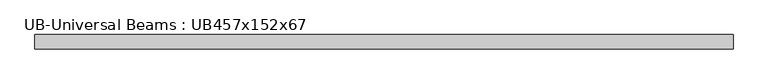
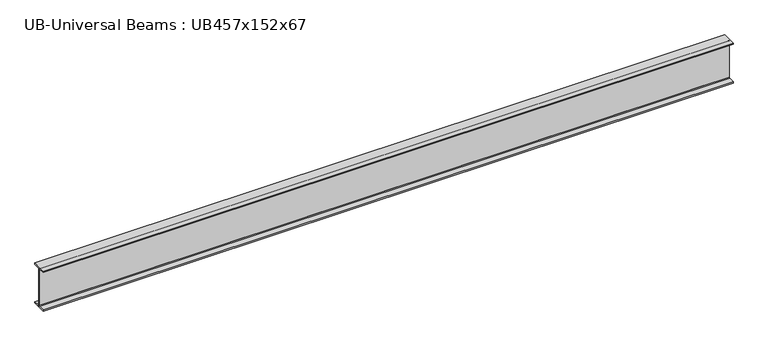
"""IFC4 building model written with IfcOpenShell, lengths in millimetres: beam geometry, UB-Universal Beams : UB457x152x67."""

from ifc_helpers import new_model, si_unit, point, frame, frame_2d, origin, place, context, project, spatial, polyline, circle_curve, trimmed, segment, composite_curve, outline, extrude, source, transform, mapped, element, save


def ub_universal_beams_ub457x152x67_21f5ef47(model_context):
    return source(origin(), model_context, "Body", "SweptSolid", [
        extrude(outline(composite_curve([segment(polyline([(76.9, -214.0), (76.9, -229.0), (-76.9, -229.0), (-76.9, -214.0), (-14.7, -214.0)]), True, "CONTINUOUS"), segment(trimmed(circle_curve(frame_2d((-14.7, -203.8)), 10.2), [point((-14.7, -214.0))], [point((-4.5, -203.8))], True, "CARTESIAN"), True, "CONTINUOUS"), segment(polyline([(-4.5, -203.8), (-4.5, 203.8)]), True, "CONTINUOUS"), segment(trimmed(circle_curve(frame_2d((-14.7, 203.8)), 10.2), [point((-4.5, 203.8))], [point((-14.7, 214.0))], True, "CARTESIAN"), True, "CONTINUOUS"), segment(polyline([(-14.7, 214.0), (-76.9, 214.0), (-76.9, 229.0), (76.9, 229.0), (76.9, 214.0), (14.7, 214.0)]), True, "CONTINUOUS"), segment(trimmed(circle_curve(frame_2d((14.7, 203.8)), 10.2), [point((14.7, 214.0))], [point((4.5, 203.8))], True, "CARTESIAN"), True, "CONTINUOUS"), segment(polyline([(4.5, 203.8), (4.5, -203.8)]), True, "CONTINUOUS"), segment(trimmed(circle_curve(frame_2d((14.7, -203.8)), 10.2), [point((4.5, -203.8))], [point((14.7, -214.0))], True, "CARTESIAN"), True, "CONTINUOUS"), segment(polyline([(14.7, -214.0), (76.9, -214.0)]), True, "CONTINUOUS")], self_intersect=False)), frame((-3734.1, 0.0, 0.0), z_axis=(1.0, 0.0, 0.0), x_axis=(0.0, 1.0, 0.0)), (0.0, 0.0, 1.0), 7468.2),
    ])


if __name__ == "__main__":
    model = new_model("IFC4")
    model_context = context("Model", 3, world=origin())
    ifc_project = project(units=[si_unit("LENGTHUNIT", "METRE", prefix="MILLI")], contexts=[model_context])
    site = spatial("IfcSite", under=ifc_project)
    building = spatial("IfcBuilding", under=site)
    placement = place(None, origin())
    ub_universal_beams_ub457x152x67_shape = ub_universal_beams_ub457x152x67_21f5ef47(model_context)
    element("IfcBeam", 1, ObjectType="UB-Universal Beams : UB457x152x67", at=placement, inside=building, context=model_context, shape_type="MappedRepresentation", body=[
        mapped(ub_universal_beams_ub457x152x67_shape, transform((0.0, 0.0, 0.0), x_axis=(1.0, 0.0, 0.0), y_axis=(0.0, 1.0, 0.0), z_axis=(0.0, 0.0, 1.0))),
    ])
    save(model, "model.ifc")
